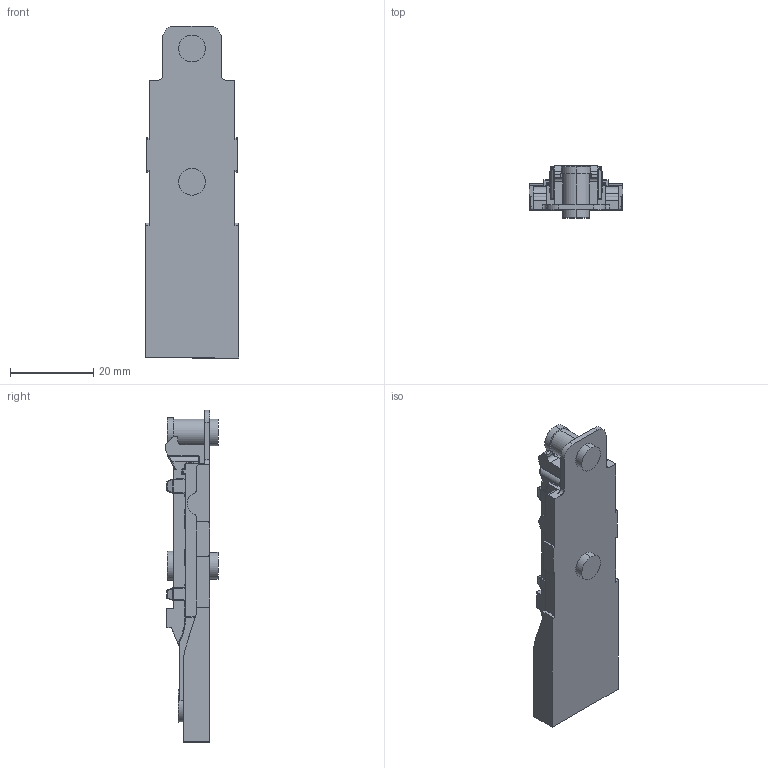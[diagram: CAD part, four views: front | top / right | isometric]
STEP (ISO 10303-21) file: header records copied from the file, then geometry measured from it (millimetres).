
FILE_DESCRIPTION (( 'STEP AP203' ), '1' );
FILE_NAME ('81H22YQA105.STEP', '2024-07-27T05:10:10', ( '微软用户' ), ( '微软中国' ), 'SwSTEP 2.0', 'SolidWorks 2021', '' );
FILE_SCHEMA (( 'CONFIG_CONTROL_DESIGN' ));
Length unit declared in the file: millimetre
Products named in the file (1): 81H22YQA105
Bounding box: 22.4 x 12.5 x 79.7 mm (x, y, z)
Volume: 10881.4 mm3; surface area: 5549.5 mm2
Topology: 1 solids, 1 shells, 531 faces, 1384 edges, 815 vertices
Faces by surface type: cylinder 219, plane 120, bspline 77, torus 74, sphere 41
Entity records: 17274 total; most frequent: CARTESIAN_POINT 4981, ORIENTED_EDGE 2674, DIRECTION 2491, EDGE_CURVE 1337, AXIS2_PLACEMENT_3D 944, VERTEX_POINT 815, VECTOR 603, LINE 603
